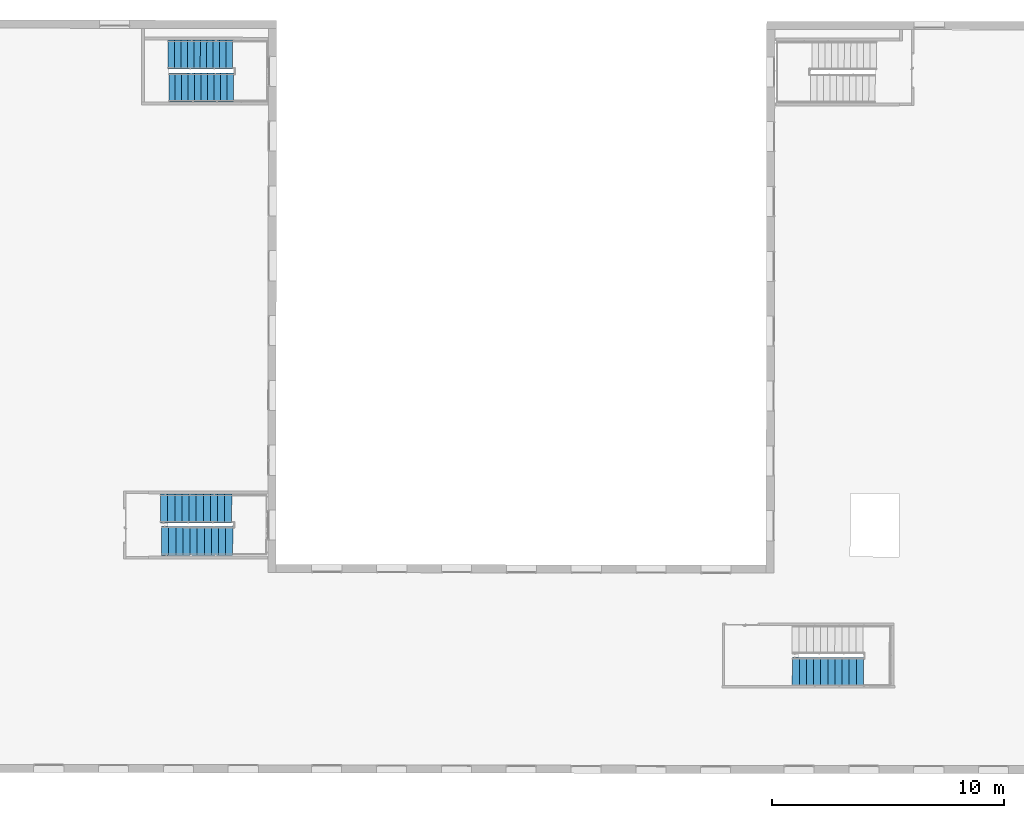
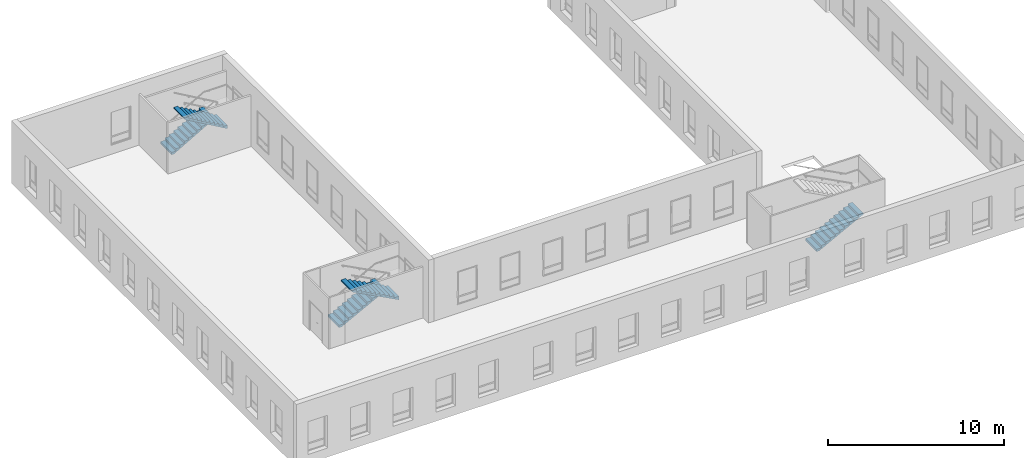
# One storey, part 34 of 35: 5 stair flights, 3 elements without a shape of their own.
"""IFC2X3 building model written with IfcOpenShell, lengths in metres."""

from ifc_helpers import new_model, entity, si_unit, converted_unit, derived_unit, direction, frame, origin, place, context, subcontext, project, spatial, faceted_brep, material, type_object, element, aggregate, save


model = new_model("IFC2X3")

# Units and contexts
model_context = context("Model", 3, precision=1e-05, world=origin(), true_north=direction((6.123233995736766e-17, 1.0)))
body_context = subcontext(model_context, "Body", "Model", "MODEL_VIEW")
ifc_project = project(units=[si_unit("LENGTHUNIT", "METRE"), si_unit("AREAUNIT", "SQUARE_METRE"), converted_unit("PLANEANGLEUNIT", "DEGREE", entity("IfcPlaneAngleMeasure", 0.017453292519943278), si_unit("PLANEANGLEUNIT", "RADIAN"), dimensions=[0, 0, 0, 0, 0, 0, 0]), derived_unit("THERMALTRANSMITTANCEUNIT", [(si_unit("MASSUNIT", "GRAM", prefix="KILO"), 1), (si_unit("THERMODYNAMICTEMPERATUREUNIT", "KELVIN"), -1), (si_unit("TIMEUNIT", "SECOND"), -3)])], contexts=[model_context])

# Site, building, storey
site_placement = place(None, frame((1253.6752467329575, 2072.143113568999, 91.49999999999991), z_axis=(0.0, 0.0, 1.0), x_axis=(0.7237211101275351, 0.6900925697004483, 0.0)))
site = spatial("IfcSite", under=ifc_project, at=site_placement, Name="Surface", CompositionType="ELEMENT")
building_placement = place(site_placement, origin())
building = spatial("IfcBuilding", under=site, at=building_placement, CompositionType="ELEMENT")
storey_placement = place(building_placement, frame((0.0, 0.0, 3.549999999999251)))
storey = spatial("IfcBuildingStorey", under=building, at=storey_placement, Name="1-R+1", CompositionType="ELEMENT", Elevation=3.549999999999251)

# Stair, stair flight
type_product = type_object("IfcTypeProduct", Name="Escalier coulé sur place:Monobloc")
stair_1_placement = place(storey_placement, origin())
stair_1 = element("IfcStair", 1, at=stair_1_placement, inside=storey, type_object=type_product, Name="Escalier coulé sur place:Escalier", ObjectType="Escalier coulé sur place:Monobloc", ShapeType="HALF_TURN_STAIR")
ifc_material = material(Name="<Unnamed>")
stair_flight_type = type_object("IfcStairFlightType", Name="Volée monobloc:Nez de marche 5 mm", PredefinedType="STRAIGHT")
stair_flight_1_placement = place(stair_1_placement, frame((172.58083404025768, -20.219401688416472, 0.0)))
stair_flight_1 = element("IfcStairFlight", 2, at=stair_flight_1_placement, type_object=stair_flight_type, material=ifc_material, Name="Escalier coulé sur place:Escalier:3294156 Run 1", ObjectType="Volée monobloc:Nez de marche 5 mm", NumberOfRiser=11, NumberOfTreads=10, RiserHeight=0.5294082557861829, TreadLength=1.0081126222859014, context=body_context, shape_type="Brep", body=[
    faceted_brep([(1.0858480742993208, 2.8144721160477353, 0.16136363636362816), (0.8637297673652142, 3.0267925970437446, 0.16136363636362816), (0.0, 2.123204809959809, 0.16136363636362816), (0.2221183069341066, 1.910884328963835, 0.16136363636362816), (1.085848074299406, 2.8144721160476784, 0.07100327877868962), (0.9881115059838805, 2.9078974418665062, 0.0), (0.8637297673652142, 3.0267925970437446, 0.0), (0.0, 2.123204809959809, 0.0), (0.12438173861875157, 2.004309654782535, 0.0), (0.2221183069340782, 1.910884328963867, 0.07100327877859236), (1.307966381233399, 2.6021516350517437, 0.3227272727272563), (1.0858480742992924, 2.8144721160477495, 0.3227272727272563), (0.2221183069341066, 1.9108843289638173, 0.3227272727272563), (0.4442366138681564, 1.6985638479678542, 0.3227272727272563), (1.3079663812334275, 2.6021516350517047, 0.23236691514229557), (0.4442366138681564, 1.6985638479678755, 0.23236691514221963), (1.5300846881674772, 2.3898311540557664, 0.48409090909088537), (1.3079663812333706, 2.602151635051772, 0.48409090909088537), (0.4442366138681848, 1.69856384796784, 0.48409090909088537), (0.6663549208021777, 1.4862433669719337, 0.48409090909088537), (1.5300846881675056, 2.38983115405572, 0.39373055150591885), (0.6663549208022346, 1.4862433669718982, 0.39373055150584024), (1.752202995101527, 2.1775106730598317, 0.6454545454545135), (1.5300846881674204, 2.389831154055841, 0.6454545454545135), (0.6663549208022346, 1.4862433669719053, 0.6454545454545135), (0.8884732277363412, 1.2739228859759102, 0.6454545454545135), (1.7522029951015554, 2.1775106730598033, 0.555094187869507), (0.8884732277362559, 1.2739228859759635, 0.5550941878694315), (1.9743213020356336, 1.9651901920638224, 0.8068181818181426), (1.752202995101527, 2.177510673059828, 0.8068181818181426), (0.8884732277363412, 1.273922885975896, 0.8068181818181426), (1.1105915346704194, 1.0616024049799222, 0.8068181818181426), (1.974321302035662, 1.965190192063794, 0.7164578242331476), (1.1105915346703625, 1.0616024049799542, 0.7164578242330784), (2.196439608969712, 1.752869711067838, 0.9681818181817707), (1.9743213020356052, 1.9651901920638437, 0.9681818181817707), (1.1105915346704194, 1.0616024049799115, 0.9681818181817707), (1.3327098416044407, 0.849281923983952, 0.9681818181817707), (2.19643960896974, 1.7528697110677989, 0.8778214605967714), (1.3327098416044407, 0.8492819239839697, 0.8778214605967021), (2.4185579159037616, 1.5405492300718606, 1.129545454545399), (2.196439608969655, 1.7528697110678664, 1.129545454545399), (1.3327098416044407, 0.8492819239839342, 1.129545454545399), (1.5548281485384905, 0.6369614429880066, 1.129545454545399), (2.41855791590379, 1.5405492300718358, 1.039185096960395), (1.5548281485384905, 0.6369614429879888, 1.0391850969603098), (2.6406762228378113, 1.3282287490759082, 1.290909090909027), (2.4185579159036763, 1.5405492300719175, 1.290909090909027), (1.5548281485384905, 0.6369614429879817, 1.290909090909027), (1.7769464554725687, 0.4246409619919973, 1.290909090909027), (2.640676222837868, 1.3282287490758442, 1.200548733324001), (1.7769464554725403, 0.42464096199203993, 1.2005487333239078), (2.8627945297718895, 1.1159082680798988, 1.4522727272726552), (2.6406762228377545, 1.3282287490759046, 1.4522727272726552), (1.7769464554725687, 0.4246409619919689, 1.4522727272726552), (1.9990647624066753, 0.21232048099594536, 1.4522727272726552), (2.862794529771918, 1.1159082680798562, 1.3619123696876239), (1.9990647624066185, 0.21232048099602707, 1.3619123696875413), (3.0849128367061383, 0.9035877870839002, 1.6136363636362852), (2.862794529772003, 1.1159082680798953, 1.6136363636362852), (1.9990647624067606, 0.21232048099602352, 1.6136363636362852), (2.217568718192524, 0.003454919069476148, 1.6136363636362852), (2.221183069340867, 0.0, 1.6136363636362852), (3.0849128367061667, 0.903587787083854, 1.5232760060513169), (2.217568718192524, 0.003454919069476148, 1.5206502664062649), (2.221183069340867, 0.0, 1.5232760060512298)], [[[0, 1, 2, 3]], [[1, 0, 4, 5, 6]], [[2, 1, 6, 7]], [[3, 2, 7, 8, 9]], [[10, 11, 12, 13]], [[11, 10, 14, 4, 0]], [[0, 3, 12, 11]], [[13, 12, 3, 9, 15]], [[16, 17, 18, 19]], [[17, 16, 20, 14, 10]], [[10, 13, 18, 17]], [[19, 18, 13, 15, 21]], [[22, 23, 24, 25]], [[23, 22, 26, 20, 16]], [[16, 19, 24, 23]], [[25, 24, 19, 21, 27]], [[28, 29, 30, 31]], [[29, 28, 32, 26, 22]], [[22, 25, 30, 29]], [[31, 30, 25, 27, 33]], [[34, 35, 36, 37]], [[35, 34, 38, 32, 28]], [[28, 31, 36, 35]], [[37, 36, 31, 33, 39]], [[40, 41, 42, 43]], [[41, 40, 44, 38, 34]], [[34, 37, 42, 41]], [[43, 42, 37, 39, 45]], [[46, 47, 48, 49]], [[47, 46, 50, 44, 40]], [[40, 43, 48, 47]], [[49, 48, 43, 45, 51]], [[52, 53, 54, 55]], [[53, 52, 56, 50, 46]], [[46, 49, 54, 53]], [[55, 54, 49, 51, 57]], [[58, 59, 60, 61, 62]], [[59, 58, 63, 56, 52]], [[52, 55, 60, 59]], [[61, 60, 55, 57, 64]], [[62, 61, 64, 65]], [[58, 62, 65, 63]], [[7, 6, 5, 8]], [[8, 5, 4, 14, 20, 26, 32, 38, 44, 50, 56, 63, 65, 64, 57, 51, 45, 39, 33, 27, 21, 15, 9]]]),
])
aggregate(stair_1, [stair_flight_1])

# Stair, stair flights
stair_2_placement = place(storey_placement, origin())
stair_2 = element("IfcStair", 3, at=stair_2_placement, inside=storey, type_object=type_product, Name="Escalier coulé sur place:Escalier", ObjectType="Escalier coulé sur place:Monobloc", ShapeType="HALF_TURN_STAIR")
stair_flight_2_placement = place(stair_2_placement, frame((157.70557514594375, 3.707298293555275, 0.0)))
stair_flight_2 = element("IfcStairFlight", 4, at=stair_flight_2_placement, type_object=stair_flight_type, material=ifc_material, Name="Escalier coulé sur place:Escalier:3294221 Run 1", ObjectType="Volée monobloc:Nez de marche 5 mm", NumberOfRiser=11, NumberOfTreads=10, RiserHeight=0.5294082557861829, TreadLength=1.0081126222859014, context=body_context, shape_type="Brep", body=[
    faceted_brep([(1.085848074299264, 2.8144721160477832, 0.16136363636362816), (0.863729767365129, 3.026792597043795, 0.16136363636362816), (0.0, 2.123204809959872, 0.16136363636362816), (0.22211830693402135, 1.9108843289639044, 0.16136363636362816), (1.0858480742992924, 2.814472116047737, 0.07100327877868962), (0.9881115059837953, 2.9078974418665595, 0.0), (0.863729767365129, 3.026792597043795, 0.0), (0.0, 2.123204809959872, 0.0), (0.12438173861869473, 2.004309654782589, 0.0), (0.22211830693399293, 1.9108843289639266, 0.07100327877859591), (1.3079663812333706, 2.6021516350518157, 0.3227272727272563), (1.085848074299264, 2.8144721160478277, 0.3227272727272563), (0.2221183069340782, 1.9108843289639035, 0.3227272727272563), (0.4442366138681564, 1.6985638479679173, 0.3227272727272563), (1.3079663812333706, 2.6021516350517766, 0.23236691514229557), (0.4442366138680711, 1.6985638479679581, 0.23236691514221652), (1.5300846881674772, 2.3898311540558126, 0.48409090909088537), (1.3079663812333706, 2.6021516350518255, 0.48409090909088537), (0.4442366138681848, 1.6985638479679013, 0.48409090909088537), (0.6663549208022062, 1.4862433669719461, 0.48409090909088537), (1.5300846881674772, 2.3898311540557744, 0.3937305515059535), (0.6663549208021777, 1.486243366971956, 0.3937305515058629), (1.7522029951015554, 2.177510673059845, 0.6454545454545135), (1.5300846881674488, 2.389831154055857, 0.6454545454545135), (0.666354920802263, 1.4862433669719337, 0.6454545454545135), (0.8884732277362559, 1.2739228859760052, 0.6454545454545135), (1.7522029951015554, 2.177510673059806, 0.5550941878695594), (0.8884732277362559, 1.2739228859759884, 0.555094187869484), (1.9743213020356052, 1.9651901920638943, 0.8068181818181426), (1.7522029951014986, 2.177510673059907, 0.8068181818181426), (0.8884732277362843, 1.273922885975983, 0.8068181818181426), (1.1105915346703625, 1.0616024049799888, 0.8068181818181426), (1.9743213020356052, 1.9651901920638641, 0.7164578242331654), (1.1105915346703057, 1.0616024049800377, 0.7164578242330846), (2.19643960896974, 1.7528697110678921, 0.9681818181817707), (1.9743213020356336, 1.965190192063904, 0.9681818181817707), (1.1105915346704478, 1.06160240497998, 0.9681818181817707), (1.3327098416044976, 0.8492819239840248, 0.9681818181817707), (2.19643960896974, 1.752869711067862, 0.8778214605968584), (1.3327098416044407, 0.8492819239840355, 0.8778214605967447), (2.418557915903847, 1.5405492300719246, 1.129545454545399), (2.19643960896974, 1.7528697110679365, 1.129545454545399), (1.3327098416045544, 0.8492819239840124, 1.129545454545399), (1.5548281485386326, 0.6369614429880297, 1.129545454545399), (2.418557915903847, 1.5405492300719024, 1.0391850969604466), (1.5548281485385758, 0.636961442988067, 1.0391850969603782), (2.640676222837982, 1.3282287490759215, 1.290909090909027), (2.418557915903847, 1.5405492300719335, 1.290909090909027), (1.554828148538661, 0.6369614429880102, 1.290909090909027), (1.7769464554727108, 0.4246409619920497, 1.290909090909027), (2.640676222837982, 1.3282287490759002, 1.2005487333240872), (1.7769464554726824, 0.4246409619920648, 1.2005487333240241), (2.86279452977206, 1.1159082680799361, 1.4522727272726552), (2.640676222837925, 1.328228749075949, 1.4522727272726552), (1.7769464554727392, 0.42464096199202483, 1.4522727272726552), (1.9990647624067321, 0.21232048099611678, 1.4522727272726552), (2.86279452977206, 1.115908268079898, 1.3619123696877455), (1.9990647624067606, 0.21232048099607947, 1.3619123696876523), (3.084912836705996, 0.9035877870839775, 1.6136363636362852), (3.0812984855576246, 0.9070427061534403, 1.6136363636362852), (2.8627945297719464, 1.1159082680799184, 1.6136363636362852), (1.9990647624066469, 0.21232048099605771, 1.6136363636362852), (2.2175687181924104, 0.003454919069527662, 1.6136363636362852), (2.2211830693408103, 0.0, 1.6136363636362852), (3.0849128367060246, 0.9035877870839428, 1.523276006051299), (3.0812984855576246, 0.9070427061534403, 1.5206502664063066), (2.2175687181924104, 0.003454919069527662, 1.5206502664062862), (2.2211830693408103, 0.0, 1.5232760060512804)], [[[0, 1, 2, 3]], [[1, 0, 4, 5, 6]], [[2, 1, 6, 7]], [[3, 2, 7, 8, 9]], [[10, 11, 12, 13]], [[11, 10, 14, 4, 0]], [[0, 3, 12, 11]], [[13, 12, 3, 9, 15]], [[16, 17, 18, 19]], [[17, 16, 20, 14, 10]], [[10, 13, 18, 17]], [[19, 18, 13, 15, 21]], [[22, 23, 24, 25]], [[23, 22, 26, 20, 16]], [[16, 19, 24, 23]], [[25, 24, 19, 21, 27]], [[28, 29, 30, 31]], [[29, 28, 32, 26, 22]], [[22, 25, 30, 29]], [[31, 30, 25, 27, 33]], [[34, 35, 36, 37]], [[35, 34, 38, 32, 28]], [[28, 31, 36, 35]], [[37, 36, 31, 33, 39]], [[40, 41, 42, 43]], [[41, 40, 44, 38, 34]], [[34, 37, 42, 41]], [[43, 42, 37, 39, 45]], [[46, 47, 48, 49]], [[47, 46, 50, 44, 40]], [[40, 43, 48, 47]], [[49, 48, 43, 45, 51]], [[52, 53, 54, 55]], [[53, 52, 56, 50, 46]], [[46, 49, 54, 53]], [[55, 54, 49, 51, 57]], [[58, 59, 60, 61, 62, 63]], [[59, 58, 64, 65]], [[60, 59, 65, 56, 52]], [[52, 55, 61, 60]], [[62, 61, 55, 57, 66]], [[63, 62, 66, 67]], [[58, 63, 67, 64]], [[7, 6, 5, 8]], [[8, 5, 4, 14, 20, 26, 32, 38, 44, 50, 56, 65, 64, 67, 66, 57, 51, 45, 39, 33, 27, 21, 15, 9]]]),
])
stair_flight_3_placement = place(stair_2_placement, frame((156.77970176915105, 2.6693911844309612, 0.0)))
stair_flight_3 = element("IfcStairFlight", 5, at=stair_flight_3_placement, type_object=stair_flight_type, material=ifc_material, Name="Escalier coulé sur place:Escalier:3294221 Run 2", ObjectType="Volée monobloc:Nez de marche 5 mm", NumberOfRiser=11, NumberOfTreads=10, RiserHeight=0.5294082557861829, TreadLength=1.0081126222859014, context=body_context, shape_type="Brep", body=[
    faceted_brep([(1.9954504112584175, 0.2123204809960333, 1.9363636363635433), (2.2175687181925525, 0.0, 1.9363636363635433), (3.0812984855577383, 0.9035877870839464, 1.9363636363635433), (2.8591801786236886, 1.1159082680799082, 1.9363636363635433), (1.9954504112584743, 0.2123204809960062, 1.8460032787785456), (2.2175687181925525, 0.0, 1.684639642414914), (2.2175687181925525, 0.0, 1.7749999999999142), (3.0812984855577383, 0.9035877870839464, 1.6846396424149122), (3.0812984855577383, 0.9035877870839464, 1.7749999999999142), (2.8591801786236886, 1.1159082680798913, 1.8460032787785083), (1.7733321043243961, 0.42464096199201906, 2.0977272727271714), (1.9954504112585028, 0.21232048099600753, 2.0977272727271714), (2.8591801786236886, 1.1159082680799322, 2.0977272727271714), (2.6370618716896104, 1.328228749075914, 2.0977272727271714), (1.7733321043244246, 0.424640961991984, 2.0073669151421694), (2.637061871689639, 1.328228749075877, 2.0073669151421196), (1.551213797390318, 0.6369614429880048, 2.2590909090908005), (1.7733321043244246, 0.4246409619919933, 2.2590909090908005), (2.6370618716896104, 1.328228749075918, 2.2590909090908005), (2.414943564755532, 1.5405492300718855, 2.2590909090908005), (1.551213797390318, 0.6369614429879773, 2.16873055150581), (2.414943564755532, 1.5405492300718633, 2.1687305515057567), (1.3290954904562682, 0.8492819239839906, 2.4204545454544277), (1.5512137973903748, 0.6369614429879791, 2.4204545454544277), (2.4149435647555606, 1.5405492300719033, 2.4204545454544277), (2.192825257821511, 1.7528697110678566, 2.4204545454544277), (1.3290954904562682, 0.8492819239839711, 2.330094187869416), (2.1928252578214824, 1.7528697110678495, 2.330094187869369), (1.1069771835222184, 1.0616024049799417, 2.581818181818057), (1.329095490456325, 0.8492819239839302, 2.581818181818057), (2.192825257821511, 1.7528697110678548, 2.581818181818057), (1.9707069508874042, 1.9651901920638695, 2.581818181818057), (1.1069771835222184, 1.0616024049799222, 2.491457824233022), (1.9707069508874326, 1.965190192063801, 2.4914578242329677), (0.8848588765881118, 1.2739228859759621, 2.743181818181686), (1.1069771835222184, 1.0616024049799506, 2.743181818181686), (1.9707069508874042, 1.9651901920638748, 2.743181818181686), (1.748588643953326, 2.1775106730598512, 2.743181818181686), (0.8848588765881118, 1.2739228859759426, 2.6528214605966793), (1.748588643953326, 2.177510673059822, 2.652821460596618), (0.662740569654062, 1.4862433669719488, 2.904545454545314), (0.8848588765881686, 1.2739228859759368, 2.904545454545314), (1.7485886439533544, 2.177510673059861, 2.904545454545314), (1.5264703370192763, 2.38983115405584, 2.904545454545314), (0.6627405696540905, 1.4862433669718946, 2.8141850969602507), (1.5264703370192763, 2.389831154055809, 2.8141850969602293), (0.44062226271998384, 1.6985638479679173, 3.065909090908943), (0.6627405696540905, 1.4862433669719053, 3.065909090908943), (1.5264703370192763, 2.3898311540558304, 3.065909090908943), (1.3043520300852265, 2.6021516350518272, 3.065909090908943), (0.44062226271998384, 1.69856384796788, 2.975548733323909), (1.3043520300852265, 2.6021516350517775, 2.9755487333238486), (0.21850395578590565, 1.9108843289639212, 3.2272727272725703), (0.44062226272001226, 1.6985638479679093, 3.2272727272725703), (1.3043520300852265, 2.6021516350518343, 3.2272727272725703), (1.0822337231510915, 2.8144721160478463, 3.2272727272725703), (0.21850395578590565, 1.910884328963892, 3.1369123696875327), (1.0822337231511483, 2.8144721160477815, 3.1369123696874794), (0.0, 2.1197498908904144, 3.3886363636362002), (0.21850395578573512, 1.9108843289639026, 3.3886363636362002), (1.0822337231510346, 2.814472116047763, 3.3886363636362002), (0.8637297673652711, 3.023337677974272, 3.3886363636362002), (0.0, 2.1197498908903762, 3.295650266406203), (0.8637297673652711, 3.023337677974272, 3.2956502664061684)], [[[0, 1, 2, 3]], [[1, 0, 4, 5, 6]], [[2, 1, 6, 5, 7, 8]], [[3, 2, 8, 7, 9]], [[10, 11, 12, 13]], [[11, 10, 14, 4, 0]], [[12, 11, 0, 3]], [[13, 12, 3, 9, 15]], [[16, 17, 18, 19]], [[17, 16, 20, 14, 10]], [[18, 17, 10, 13]], [[19, 18, 13, 15, 21]], [[22, 23, 24, 25]], [[23, 22, 26, 20, 16]], [[24, 23, 16, 19]], [[25, 24, 19, 21, 27]], [[28, 29, 30, 31]], [[29, 28, 32, 26, 22]], [[30, 29, 22, 25]], [[31, 30, 25, 27, 33]], [[34, 35, 36, 37]], [[35, 34, 38, 32, 28]], [[36, 35, 28, 31]], [[37, 36, 31, 33, 39]], [[40, 41, 42, 43]], [[41, 40, 44, 38, 34]], [[42, 41, 34, 37]], [[43, 42, 37, 39, 45]], [[46, 47, 48, 49]], [[47, 46, 50, 44, 40]], [[48, 47, 40, 43]], [[49, 48, 43, 45, 51]], [[52, 53, 54, 55]], [[53, 52, 56, 50, 46]], [[54, 53, 46, 49]], [[55, 54, 49, 51, 57]], [[58, 59, 60, 61]], [[59, 58, 62, 56, 52]], [[60, 59, 52, 55]], [[61, 60, 55, 57, 63]], [[58, 61, 63, 62]], [[5, 4, 14, 20, 26, 32, 38, 44, 50, 56, 62, 63, 57, 51, 45, 39, 33, 27, 21, 15, 9, 7]]]),
])
aggregate(stair_2, [stair_flight_2, stair_flight_3])

stair_3_placement = place(storey_placement, origin())
stair_3 = element("IfcStair", 6, at=stair_3_placement, inside=storey, type_object=type_product, Name="Escalier coulé sur place:Escalier", ObjectType="Escalier coulé sur place:Monobloc", ShapeType="HALF_TURN_STAIR")
stair_flight_4_placement = place(stair_3_placement, frame((171.45929842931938, 17.86653243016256, 0.0)))
stair_flight_4 = element("IfcStairFlight", 7, at=stair_flight_4_placement, type_object=stair_flight_type, material=ifc_material, Name="Escalier coulé sur place:Escalier:3294290 Run 1", ObjectType="Volée monobloc:Nez de marche 5 mm", NumberOfRiser=11, NumberOfTreads=10, RiserHeight=0.5294082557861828, TreadLength=0.9186351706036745, context=body_context, shape_type="Brep", body=[
    faceted_brep([(1.0661334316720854, 2.644866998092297, 0.1613636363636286), (0.8637297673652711, 2.8383424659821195, 0.1613636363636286), (0.0, 1.9347546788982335, 0.1613636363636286), (0.20240366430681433, 1.7412792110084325, 0.1613636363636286), (1.0661334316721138, 2.6448669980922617, 0.06902962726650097), (0.9795473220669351, 2.727633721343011, 0.0), (0.8637297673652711, 2.8383424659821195, 0.0), (0.0, 1.9347546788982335, 0.0), (0.11581755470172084, 1.824045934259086, 0.0), (0.20240366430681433, 1.7412792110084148, 0.06902962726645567), (1.268537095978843, 2.4513915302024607, 0.32272727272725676), (1.0661334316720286, 2.644866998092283, 0.32272727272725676), (0.2024036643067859, 1.7412792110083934, 0.32272727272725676), (0.4048073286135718, 1.5478037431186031, 0.32272727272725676), (1.2685370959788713, 2.4513915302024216, 0.23039326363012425), (0.4048073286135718, 1.5478037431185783, 0.23039326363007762), (1.4709407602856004, 2.2579160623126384, 0.48409090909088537), (1.268537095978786, 2.4513915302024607, 0.48409090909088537), (0.4048073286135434, 1.5478037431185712, 0.48409090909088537), (0.6072109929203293, 1.3543282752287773, 0.48409090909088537), (1.4709407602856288, 2.257916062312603, 0.3917568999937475), (0.6072109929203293, 1.354328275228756, 0.3917568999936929), (1.6733444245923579, 2.064440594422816, 0.6454545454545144), (1.4709407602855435, 2.2579160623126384, 0.6454545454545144), (0.6072109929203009, 1.3543282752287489, 0.6454545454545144), (0.8096146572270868, 1.1608528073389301, 0.6454545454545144), (1.6733444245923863, 2.0644405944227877, 0.5531205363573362), (0.8096146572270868, 1.1608528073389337, 0.5531205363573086), (1.8757480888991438, 1.870965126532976, 0.8068181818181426), (1.6733444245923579, 2.0644405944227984, 0.8068181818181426), (0.8096146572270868, 1.1608528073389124, 0.8068181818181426), (1.0120183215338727, 0.9673773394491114, 0.8068181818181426), (1.8757480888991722, 1.8709651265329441, 0.7144841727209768), (1.0120183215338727, 0.9673773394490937, 0.7144841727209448), (2.0781517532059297, 1.6774896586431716, 0.9681818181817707), (1.8757480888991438, 1.8709651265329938, 0.9681818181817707), (1.0120183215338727, 0.9673773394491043, 0.9681818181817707), (1.2144219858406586, 0.7739018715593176, 0.9681818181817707), (2.078151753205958, 1.6774896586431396, 0.8758478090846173), (1.2144219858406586, 0.7739018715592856, 0.8758478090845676), (2.280555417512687, 1.4840141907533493, 1.129545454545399), (2.0781517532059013, 1.6774896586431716, 1.129545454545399), (1.2144219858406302, 0.7739018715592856, 1.129545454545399), (1.4168256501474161, 0.5804264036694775, 1.129545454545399), (2.2805554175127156, 1.4840141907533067, 1.037211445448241), (1.4168256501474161, 0.5804264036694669, 1.0372114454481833), (2.4829590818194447, 1.2905387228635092, 1.290909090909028), (2.2805554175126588, 1.4840141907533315, 1.290909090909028), (1.4168256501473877, 0.5804264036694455, 1.290909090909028), (1.6192293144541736, 0.38695093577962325, 1.290909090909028), (2.482959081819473, 1.2905387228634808, 1.198575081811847), (1.6192293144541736, 0.3869509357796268, 1.1985750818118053), (2.6853627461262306, 1.0970632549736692, 1.452272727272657), (2.4829590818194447, 1.2905387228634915, 1.452272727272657), (1.6192293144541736, 0.3869509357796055, 1.452272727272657), (1.8216329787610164, 0.19347546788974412, 1.452272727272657), (2.685362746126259, 1.0970632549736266, 1.3599387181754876), (1.8216329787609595, 0.19347546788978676, 1.3599387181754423), (2.887766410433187, 0.9035877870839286, 1.6136363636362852), (2.884152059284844, 0.9070427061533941, 1.6136363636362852), (2.685362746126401, 1.0970632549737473, 1.6136363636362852), (1.82163297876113, 0.19347546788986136, 1.6136363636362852), (2.020422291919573, 0.003454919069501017, 1.6136363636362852), (2.0240366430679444, 0.0, 1.6136363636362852), (2.8877664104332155, 0.9035877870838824, 1.521302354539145), (2.884152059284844, 0.9070427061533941, 1.5184208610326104), (2.020422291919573, 0.003454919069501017, 1.5184208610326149), (2.0240366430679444, 0.0, 1.5213023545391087)], [[[0, 1, 2, 3]], [[1, 0, 4, 5, 6]], [[2, 1, 6, 7]], [[3, 2, 7, 8, 9]], [[10, 11, 12, 13]], [[11, 10, 14, 4, 0]], [[0, 3, 12, 11]], [[13, 12, 3, 9, 15]], [[16, 17, 18, 19]], [[17, 16, 20, 14, 10]], [[10, 13, 18, 17]], [[19, 18, 13, 15, 21]], [[22, 23, 24, 25]], [[23, 22, 26, 20, 16]], [[16, 19, 24, 23]], [[25, 24, 19, 21, 27]], [[28, 29, 30, 31]], [[29, 28, 32, 26, 22]], [[22, 25, 30, 29]], [[31, 30, 25, 27, 33]], [[34, 35, 36, 37]], [[35, 34, 38, 32, 28]], [[28, 31, 36, 35]], [[37, 36, 31, 33, 39]], [[40, 41, 42, 43]], [[41, 40, 44, 38, 34]], [[34, 37, 42, 41]], [[43, 42, 37, 39, 45]], [[46, 47, 48, 49]], [[47, 46, 50, 44, 40]], [[40, 43, 48, 47]], [[49, 48, 43, 45, 51]], [[52, 53, 54, 55]], [[53, 52, 56, 50, 46]], [[46, 49, 54, 53]], [[55, 54, 49, 51, 57]], [[58, 59, 60, 61, 62, 63]], [[59, 58, 64, 65]], [[60, 59, 65, 56, 52]], [[52, 55, 61, 60]], [[62, 61, 55, 57, 66]], [[63, 62, 66, 67]], [[58, 63, 67, 64]], [[7, 6, 5, 8]], [[8, 5, 4, 14, 20, 26, 32, 38, 44, 50, 56, 65, 64, 67, 66, 57, 51, 45, 39, 33, 27, 21, 15, 9]]]),
])
stair_flight_5_placement = place(stair_3_placement, frame((170.51063057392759, 16.81241735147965, 0.0)))
stair_flight_5 = element("IfcStairFlight", 8, at=stair_flight_5_placement, type_object=stair_flight_type, material=ifc_material, Name="Escalier coulé sur place:Escalier:3294290 Run 2", ObjectType="Volée monobloc:Nez de marche 5 mm", NumberOfRiser=11, NumberOfTreads=10, RiserHeight=0.5294082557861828, TreadLength=0.9186351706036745, context=body_context, shape_type="Brep", body=[
    faceted_brep([(1.8180186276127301, 0.19347546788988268, 1.9363636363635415), (2.020422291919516, 0.0, 1.9363636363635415), (2.8841520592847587, 0.9035877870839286, 1.9363636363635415), (2.681748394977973, 1.0970632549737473, 1.9363636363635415), (1.818018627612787, 0.19347546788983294, 1.8440296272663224), (2.020422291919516, 0.0, 1.6826659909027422), (2.020422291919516, 0.0, 1.7749999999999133), (2.8841520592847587, 0.9035877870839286, 1.6826659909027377), (2.8841520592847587, 0.9035877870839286, 1.7749999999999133), (2.681748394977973, 1.097063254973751, 1.8440296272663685), (1.6156149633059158, 0.3869509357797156, 2.0977272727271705), (1.8180186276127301, 0.19347546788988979, 2.0977272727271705), (2.681748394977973, 1.097063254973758, 2.0977272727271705), (2.479344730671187, 1.2905387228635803, 2.0977272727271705), (1.6156149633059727, 0.3869509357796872, 2.0053932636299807), (2.479344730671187, 1.2905387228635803, 2.005393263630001), (1.41321129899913, 0.5804264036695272, 2.259090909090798), (1.6156149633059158, 0.38695093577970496, 2.259090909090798), (2.479344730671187, 1.2905387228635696, 2.259090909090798), (2.276941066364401, 1.4840141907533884, 2.259090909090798), (1.4132112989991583, 0.5804264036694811, 2.1667568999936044), (2.276941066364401, 1.4840141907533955, 2.1667568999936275), (1.210807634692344, 0.7739018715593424, 2.420454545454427), (1.41321129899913, 0.5804264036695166, 2.420454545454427), (2.276941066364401, 1.4840141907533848, 2.420454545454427), (2.074537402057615, 1.6774896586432, 2.420454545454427), (1.2108076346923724, 0.7739018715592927, 2.3281205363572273), (2.074537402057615, 1.677489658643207, 2.328120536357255), (1.0084039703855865, 0.9673773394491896, 2.581818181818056), (1.2108076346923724, 0.7739018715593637, 2.581818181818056), (2.0745374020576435, 1.677489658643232, 2.581818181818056), (1.872133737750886, 1.8709651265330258, 2.581818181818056), (1.008403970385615, 0.9673773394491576, 2.489484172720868), (1.8721337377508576, 1.8709651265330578, 2.489484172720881), (0.806000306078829, 1.1608528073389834, 2.743181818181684), (1.008403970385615, 0.9673773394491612, 2.743181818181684), (1.872133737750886, 1.8709651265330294, 2.743181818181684), (1.6697300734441, 2.064440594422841, 2.743181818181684), (0.8060003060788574, 1.1608528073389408, 2.650847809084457), (1.6697300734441, 2.0644405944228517, 2.6508478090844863), (0.6035966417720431, 1.3543282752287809, 2.904545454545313), (0.806000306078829, 1.1608528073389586, 2.904545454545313), (1.6697300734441, 2.0644405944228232, 2.904545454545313), (1.4673264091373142, 2.2579160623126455, 2.904545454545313), (0.6035966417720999, 1.3543282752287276, 2.812211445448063), (1.4673264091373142, 2.257916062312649, 2.8122114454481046), (0.4011929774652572, 1.5478037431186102, 3.0659090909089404), (0.6035966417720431, 1.354328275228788, 3.0659090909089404), (1.4673264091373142, 2.257916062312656, 3.0659090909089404), (1.2649227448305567, 2.4513915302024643, 3.0659090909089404), (0.4011929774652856, 1.5478037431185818, 2.9735750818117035), (1.2649227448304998, 2.4513915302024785, 2.973575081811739), (0.19878931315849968, 1.7412792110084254, 3.2272727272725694), (0.4011929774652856, 1.5478037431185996, 3.2272727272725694), (1.2649227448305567, 2.451391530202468, 3.2272727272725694), (1.0625190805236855, 2.6448669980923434, 3.2272727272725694), (0.19878931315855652, 1.741279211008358, 3.1349387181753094), (1.0625190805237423, 2.6448669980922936, 3.134938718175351), (0.0, 1.9312997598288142, 3.3886363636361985), (0.19878931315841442, 1.7412792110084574, 3.3886363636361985), (1.0625190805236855, 2.6448669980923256, 3.3886363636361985), (0.8637297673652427, 2.8348875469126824, 3.3886363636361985), (0.0, 1.9312997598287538, 3.2934208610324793), (0.8637297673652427, 2.8348875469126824, 3.293420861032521)], [[[0, 1, 2, 3]], [[1, 0, 4, 5, 6]], [[2, 1, 6, 5, 7, 8]], [[3, 2, 8, 7, 9]], [[10, 11, 12, 13]], [[11, 10, 14, 4, 0]], [[12, 11, 0, 3]], [[13, 12, 3, 9, 15]], [[16, 17, 18, 19]], [[17, 16, 20, 14, 10]], [[18, 17, 10, 13]], [[19, 18, 13, 15, 21]], [[22, 23, 24, 25]], [[23, 22, 26, 20, 16]], [[24, 23, 16, 19]], [[25, 24, 19, 21, 27]], [[28, 29, 30, 31]], [[29, 28, 32, 26, 22]], [[30, 29, 22, 25]], [[31, 30, 25, 27, 33]], [[34, 35, 36, 37]], [[35, 34, 38, 32, 28]], [[36, 35, 28, 31]], [[37, 36, 31, 33, 39]], [[40, 41, 42, 43]], [[41, 40, 44, 38, 34]], [[42, 41, 34, 37]], [[43, 42, 37, 39, 45]], [[46, 47, 48, 49]], [[47, 46, 50, 44, 40]], [[48, 47, 40, 43]], [[49, 48, 43, 45, 51]], [[52, 53, 54, 55]], [[53, 52, 56, 50, 46]], [[54, 53, 46, 49]], [[55, 54, 49, 51, 57]], [[58, 59, 60, 61]], [[59, 58, 62, 56, 52]], [[60, 59, 52, 55]], [[61, 60, 55, 57, 63]], [[58, 61, 63, 62]], [[5, 4, 14, 20, 26, 32, 38, 44, 50, 56, 62, 63, 57, 51, 45, 39, 33, 27, 21, 15, 9, 7]]]),
])
aggregate(stair_3, [stair_flight_4, stair_flight_5])

save(model, "model.ifc")
